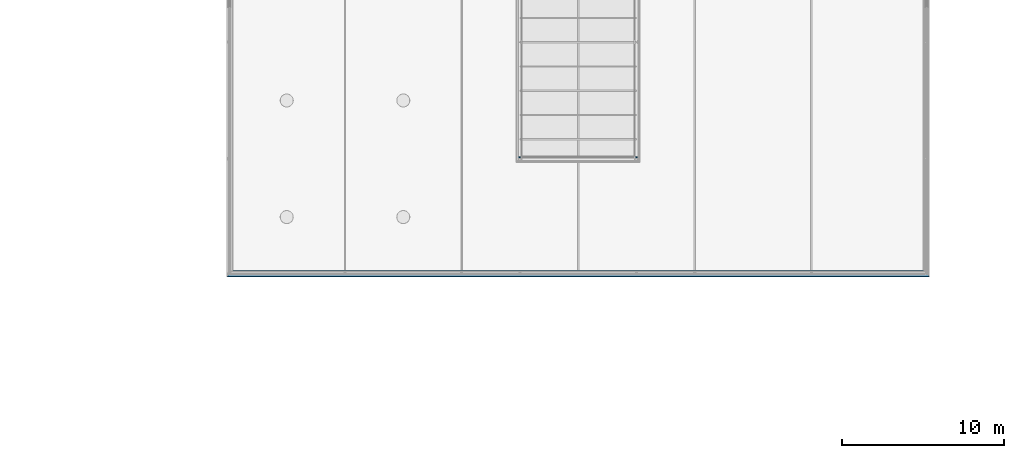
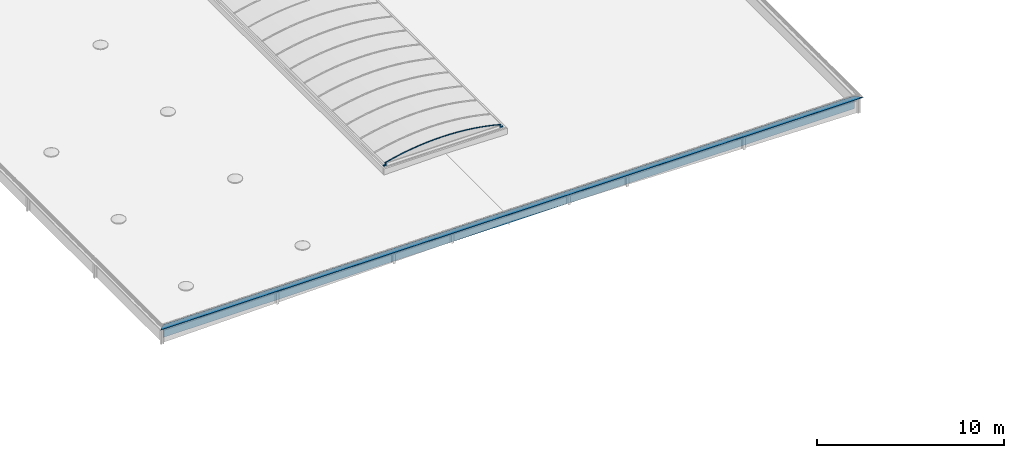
# One storey, part 51 of 81: 2 beams.
"""IFC2X3 building model written with IfcOpenShell, lengths in millimetres."""

from ifc_helpers import new_model, entity, si_unit, converted_unit, derived_unit, money_unit, direction, frame, origin_with_axes, place, context, subcontext, project, spatial, faceted_brep, material, material_list, type_object, element, save


model = new_model("IFC2X3")

# Units and contexts
model_context = context("Model", 3, precision=0.01, world=origin_with_axes(), true_north=direction((0.0, 1.0)))
body_context = subcontext(model_context, "Body", "Model", "MODEL_VIEW")
ifc_project = project(units=[si_unit("LENGTHUNIT", "METRE", prefix="MILLI"), si_unit("AREAUNIT", "SQUARE_METRE"), si_unit("VOLUMEUNIT", "CUBIC_METRE"), converted_unit("PLANEANGLEUNIT", "DEGREE", entity("IfcPlaneAngleMeasure", 0.0174532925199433), si_unit("PLANEANGLEUNIT", "RADIAN"), dimensions=[0, 0, 0, 0, 0, 0, 0]), money_unit("EUR"), converted_unit("TIMEUNIT", "Year", entity("IfcTimeMeasure", 31557600.0), si_unit("TIMEUNIT", "SECOND"), dimensions=[0, 0, 1, 0, 0, 0, 0]), si_unit("MASSUNIT", "GRAM", prefix="KILO"), si_unit("THERMODYNAMICTEMPERATUREUNIT", "DEGREE_CELSIUS"), si_unit("LUMINOUSINTENSITYUNIT", "LUMEN"), si_unit("ENERGYUNIT", "JOULE", prefix="MEGA"), derived_unit("THERMALCONDUCTANCEUNIT", [(si_unit("POWERUNIT", "WATT"), 1), (si_unit("LENGTHUNIT", "METRE"), -1), (si_unit("THERMODYNAMICTEMPERATUREUNIT", "KELVIN"), -1)]), derived_unit("SPECIFICHEATCAPACITYUNIT", [(si_unit("ENERGYUNIT", "JOULE"), 1), (si_unit("MASSUNIT", "GRAM", prefix="KILO"), -1), (si_unit("THERMODYNAMICTEMPERATUREUNIT", "KELVIN"), -1)]), derived_unit("MASSDENSITYUNIT", [(si_unit("MASSUNIT", "GRAM", prefix="KILO"), 1), (si_unit("VOLUMEUNIT", "CUBIC_METRE"), -1)])], contexts=[model_context])

# Site, building, storey
site_placement = place(None, origin_with_axes())
site = spatial("IfcSite", under=ifc_project, at=site_placement, Name="Site", CompositionType="ELEMENT")
building_placement = place(site_placement, origin_with_axes())
building = spatial("IfcBuilding", under=site, at=building_placement, Name="Naam gebouw", CompositionType="ELEMENT")
storey_placement = place(building_placement, frame((0.0, 0.0, 15320.0), z_axis=(0.0, 0.0, 1.0), x_axis=(1.0, 0.0, 0.0)))
storey = spatial("IfcBuildingStorey", under=building, at=storey_placement, Name="01 dak", CompositionType="ELEMENT", Elevation=15320.0)

# Beams
ifc_material_1 = material(Name="Membraan - dampdicht")
ifc_material_2 = material(Name="Metaal - Titanium zink")
ifc_material_list_1 = material_list([ifc_material_1, ifc_material_2])
beam_type_1 = type_object("IfcBeamType", Name="Muurafdekker_210 394 x 841", PredefinedType="BEAM")
beam_1_placement = place(storey_placement, frame((126900.0, 62000.0, 645.0108944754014), z_axis=(0.0, 0.0, 1.0), x_axis=(0.0, 1.0, 0.0)))
element("IfcBeam", 1, at=beam_1_placement, inside=storey, type_object=beam_type_1, material=ifc_material_list_1, Name="dakkap", ObjectType="BEAM", context=body_context, shape_type="Brep", body=[
    faceted_brep([(252.0000000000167, 42947.99999999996, 7.21089447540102), (252.0000000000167, 42947.99999999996, -806.4411900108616), (252.0000000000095, 252.0000000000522, -806.4411900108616), (252.0000000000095, 252.0000000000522, 7.21089447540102), (254.000000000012, 42945.99999999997, 7.21089447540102), (254.000000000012, 42945.99999999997, -806.4411900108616), (254.000000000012, 254.0000000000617, -806.4411900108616), (254.000000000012, 254.0000000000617, 7.21089447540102)], [[[0, 1, 2, 3]], [[0, 4, 5, 1]], [[1, 5, 6, 2]], [[3, 2, 6, 7]], [[4, 0, 3, 7]], [[5, 4, 7, 6]]]),
    faceted_brep([(-105.000000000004, -104.9999999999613, 7.30000000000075), (-104.9999999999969, 43304.99999999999, 7.30000000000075), (-104.2673779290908, 43304.26737792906, 5.531844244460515), (-104.2673779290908, -104.2673779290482, 5.531844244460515), (-105.000000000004, -104.9999999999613, 32.31089447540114), (-104.9999999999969, 43304.99999999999, 32.31089447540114), (-104.3675626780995, 43304.3675626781, 33.97288413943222), (-102.7902322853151, 43302.7902322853, 34.79399036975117), (-101.066058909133, 43301.06605890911, 34.35877458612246), (-79.99022734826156, 43279.99022734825, 19.60131845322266), (-79.70672514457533, 43279.70672514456, 19.5109160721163), (270.2494811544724, 42929.75051884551, 17.21089447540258), (271.6834222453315, 42928.31657775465, 16.75877458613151), (272.5987127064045, 42927.40128729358, 15.56594483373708), (288.3554032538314, 42911.64459674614, -27.72520665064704), (288.2719411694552, 42911.72805883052, -29.63680266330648), (286.8612220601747, 42913.13877793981, -30.92948856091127), (275.1150643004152, 42924.88493569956, -35.20474035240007), (274.4310240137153, 42925.56897598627, -33.32535511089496), (286.1771817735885, 42913.82281822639, -29.05010331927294), (286.4593255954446, 42913.54067440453, -28.79156613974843), (286.4760180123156, 42913.52398198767, -28.40924693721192), (270.7193274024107, 42929.28067259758, 14.88190471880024), (270.5376117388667, 42929.46238826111, 15.11952092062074), (270.2527665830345, 42929.74723341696, 15.21087341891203), (-79.70343913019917, 43279.70343913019, 17.51089447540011), (-81.13738022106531, 43281.13738022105, 17.96301436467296), (-102.2132117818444, 43302.21321178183, 32.72047049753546), (-102.5580464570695, 43302.55804645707, 32.80751365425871), (-102.8735125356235, 43302.87351253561, 32.64329240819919), (-102.9999999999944, 43302.99999999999, 32.31089447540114), (-102.9999999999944, 43302.99999999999, 7.30000000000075), (-102.853483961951, 43302.85348396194, 6.946377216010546), (-102.4998036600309, 43302.49980366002, 6.800000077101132), (-49.99999999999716, 43249.99999999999, 6.823967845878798), (-49.99999999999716, 43249.99999999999, -13.1803899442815), (-51.9999999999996, 43251.99999999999, -13.1803899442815), (-51.9999999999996, 43251.99999999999, 4.822224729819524), (-102.4988997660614, 43302.49889976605, 4.800000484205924), (-102.4988997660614, -102.4988997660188, 4.800000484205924), (-51.9999999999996, -51.99999999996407, 4.822224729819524), (-51.9999999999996, -51.99999999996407, -13.1803899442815), (-49.99999999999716, -49.99999999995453, -13.1803899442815), (-49.99999999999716, -49.99999999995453, 6.823967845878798), (-102.4998036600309, -102.4998036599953, 6.800000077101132), (-102.853483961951, -102.8534839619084, 6.946377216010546), (-103.0000000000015, -102.999999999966, 7.30000000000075), (-103.0000000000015, -102.999999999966, 32.31089447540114), (-102.8735125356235, -102.8735125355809, 32.64329240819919), (-102.5580464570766, -102.5580464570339, 32.80751365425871), (-102.2132117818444, -102.2132117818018, 32.72047049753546), (-81.13738022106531, -81.13738022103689, 17.96301436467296), (-79.70343913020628, -79.70343913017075, 17.51089447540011), (270.2527665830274, 270.2527665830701, 15.21087341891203), (270.5376117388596, 270.5376117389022, 15.11952092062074), (270.7193274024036, 270.7193274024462, 14.88190471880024), (286.4760180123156, 286.4760180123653, -28.40924693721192), (286.4593255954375, 286.4593255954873, -28.79156613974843), (286.1771817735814, 286.1771817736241, -29.05010331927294), (274.4310240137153, 274.4310240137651, -33.32535511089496), (275.1150643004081, 275.1150643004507, -35.20474035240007), (286.8612220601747, 286.8612220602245, -30.92948856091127), (288.2719411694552, 288.2719411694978, -29.63680266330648), (288.3554032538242, 288.355403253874, -27.72520665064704), (272.5987127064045, 272.5987127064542, 15.56594483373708), (271.6834222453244, 271.6834222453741, 16.75877458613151), (270.2494811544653, 270.249481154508, 17.21089447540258), (-79.70672514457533, -79.7067251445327, 19.5109160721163), (-79.99022734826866, -79.99022734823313, 19.60131845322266), (-101.066058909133, -101.0660589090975, 34.35877458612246), (-102.7902322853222, -102.7902322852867, 34.79399036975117), (-104.3675626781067, -104.367562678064, 33.97288413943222)], [[[0, 1, 2, 3]], [[4, 5, 1, 0]], [[2, 1, 5, 6, 7, 8, 9, 10, 11, 12, 13, 14, 15, 16, 17, 18, 19, 20, 21, 22, 23, 24, 25, 26, 27, 28, 29, 30, 31, 32, 33, 34, 35, 36, 37, 38]], [[3, 2, 38, 39]], [[4, 0, 3, 39, 40, 41, 42, 43, 44, 45, 46, 47, 48, 49, 50, 51, 52, 53, 54, 55, 56, 57, 58, 59, 60, 61, 62, 63, 64, 65, 66, 67, 68, 69, 70, 71]], [[71, 6, 5, 4]], [[70, 7, 6, 71]], [[69, 8, 7, 70]], [[68, 9, 8, 69]], [[67, 10, 9, 68]], [[66, 11, 10, 67]], [[65, 12, 11, 66]], [[64, 13, 12, 65]], [[63, 14, 13, 64]], [[62, 15, 14, 63]], [[61, 16, 15, 62]], [[60, 17, 16, 61]], [[59, 18, 17, 60]], [[58, 19, 18, 59]], [[57, 20, 19, 58]], [[56, 21, 20, 57]], [[55, 22, 21, 56]], [[54, 23, 22, 55]], [[53, 24, 23, 54]], [[52, 25, 24, 53]], [[51, 26, 25, 52]], [[50, 27, 26, 51]], [[49, 28, 27, 50]], [[48, 29, 28, 49]], [[47, 30, 29, 48]], [[46, 31, 30, 47]], [[45, 32, 31, 46]], [[44, 33, 32, 45]], [[43, 34, 33, 44]], [[42, 35, 34, 43]], [[41, 36, 35, 42]], [[40, 37, 36, 41]], [[39, 38, 37, 40]]]),
])
ifc_material_3 = material(Name="Metaal - Aluminium AFW")
ifc_material_4 = material(Name="Hout - Dak")
ifc_material_list_2 = material_list([ifc_material_3, ifc_material_3, ifc_material_3, ifc_material_3, ifc_material_3, ifc_material_3, ifc_material_3, ifc_material_3, ifc_material_4, ifc_material_4, ifc_material_4, ifc_material_4, ifc_material_4, ifc_material_4])
beam_type_2 = type_object("IfcBeamType", Name="lichtstraat polycarbonaat (constructie) 7420 x 670", PredefinedType="BEAM")
beam_2_placement = place(storey_placement, frame((105300.0, 69337.49999999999, 559.9999999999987), z_axis=(0.0, 0.0, 1.0), x_axis=(-1.0, 0.0, 0.0)))
element("IfcBeam", 2, at=beam_2_placement, inside=storey, type_object=beam_type_2, material=ifc_material_list_2, Name="lichtstraat", ObjectType="BEAM", context=body_context, shape_type="Brep", body=[
    faceted_brep([(3625.153752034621, 0.0, 58.00000032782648), (3627.224816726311, 0.0, 62.99999938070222), (3627.224816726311, 75.00000000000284, 62.99999938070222), (3625.153752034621, 75.00000000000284, 58.00000032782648), (3709.999999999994, 0.0, 58.00000032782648), (3709.999999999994, 0.0, 62.99999938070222), (3709.999999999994, 75.00000000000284, 62.99999938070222), (3709.999999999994, 75.00000000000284, 58.00000032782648)], [[[0, 1, 2, 3]], [[4, 5, 1, 0]], [[1, 5, 6, 2]], [[7, 3, 2, 6]], [[4, 0, 3, 7]], [[5, 4, 7, 6]]]),
    faceted_brep([(3527.999999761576, 0.0, 155.1537485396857), (3527.999999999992, 0.0, 184.0000000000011), (3527.999999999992, 75.00000000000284, 184.0000000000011), (3527.999999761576, 75.00000000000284, 155.1537485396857), (3532.999999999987, 0.0, 192.1385480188), (3527.999999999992, 0.0, 193.4415530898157), (3532.999997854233, 0.0, 157.2248178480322), (3527.999999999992, 75.00000000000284, 193.4415530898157), (3532.999997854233, 75.00000000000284, 157.2248178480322), (3532.999999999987, 75.00000000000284, 192.1385480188)], [[[0, 1, 2, 3]], [[4, 5, 1, 0, 6]], [[1, 5, 7, 2]], [[8, 3, 2, 7, 9]], [[6, 0, 3, 8]], [[5, 4, 9, 7]], [[4, 6, 8, 9]]]),
    faceted_brep([(3625.153750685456, 0.0, 58.00000035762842), (3527.999999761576, 0.0, 155.1537485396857), (3527.999999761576, 75.00000000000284, 155.1537485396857), (3625.153750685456, 75.00000000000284, 58.00000035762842), (3627.224817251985, 0.0, 62.99999845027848), (3532.999997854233, 0.0, 157.2248178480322), (3532.999997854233, 75.00000000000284, 157.2248178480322), (3627.224817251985, 75.00000000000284, 62.99999845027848)], [[[0, 1, 2, 3]], [[4, 5, 1, 0]], [[1, 5, 6, 2]], [[7, 3, 2, 6]], [[4, 0, 3, 7]], [[5, 4, 7, 6]]]),
    faceted_brep([(-3709.999999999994, 0.0, 58.00000032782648), (-3709.999999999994, 0.0, 62.99999939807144), (-3709.999999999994, 75.00000000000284, 62.99999939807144), (-3709.999999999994, 75.00000000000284, 58.00000032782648), (-3625.153749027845, 0.0, 58.00000032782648), (-3627.224816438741, 0.0, 62.99999939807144), (-3627.224816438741, 75.00000000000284, 62.99999939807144), (-3625.153749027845, 75.00000000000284, 58.00000032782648)], [[[0, 1, 2, 3]], [[4, 5, 1, 0]], [[1, 5, 6, 2]], [[7, 3, 2, 6]], [[4, 0, 3, 7]], [[5, 4, 7, 6]]]),
    faceted_brep([(-3528.000000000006, 0.0, 155.1537497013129), (-3533.000000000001, 0.0, 157.2248175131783), (-3533.000000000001, 75.00000000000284, 157.2248175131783), (-3528.000000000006, 75.00000000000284, 155.1537497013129), (-3528.000000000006, 0.0, 193.4415530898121), (-3533.000000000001, 0.0, 192.1385480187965), (-3527.999999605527, 0.0, 184.0000003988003), (-3533.000000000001, 75.00000000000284, 192.1385480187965), (-3527.999999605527, 75.00000000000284, 184.0000003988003), (-3528.000000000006, 75.00000000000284, 193.4415530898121)], [[[0, 1, 2, 3]], [[4, 5, 1, 0, 6]], [[1, 5, 7, 2]], [[8, 3, 2, 7, 9]], [[6, 0, 3, 8]], [[5, 4, 9, 7]], [[4, 6, 8, 9]]]),
    faceted_brep([(-3627.224816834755, 0.0, 62.99999858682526), (-3532.999999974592, 0.0, 157.2248181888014), (-3532.999999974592, 75.00000000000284, 157.2248181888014), (-3627.224816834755, 75.00000000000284, 62.99999858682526), (-3625.153750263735, 0.0, 58.00000048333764), (-3527.999999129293, 0.0, 155.1537488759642), (-3527.999999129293, 75.00000000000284, 155.1537488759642), (-3625.153750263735, 75.00000000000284, 58.00000048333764)], [[[0, 1, 2, 3]], [[4, 5, 1, 0]], [[1, 5, 6, 2]], [[7, 3, 2, 6]], [[4, 0, 3, 7]], [[5, 4, 7, 6]]]),
    faceted_brep([(3584.237010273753, 75.00000000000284, 183.6724462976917), (3264.746952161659, 75.00000000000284, 264.2761146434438), (3264.746952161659, 0.0, 264.2761146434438), (3584.237010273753, 0.0, 183.6724462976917), (2296.138887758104, 75.00000000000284, 460.6819250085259), (2620.519461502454, 75.00000000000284, 402.8192257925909), (2943.44844329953, 75.00000000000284, 337.3385317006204), (3582.999999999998, 75.00000000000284, 179.000000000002), (3532.999999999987, 75.00000000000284, 192.1385480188), (3527.999999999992, 75.00000000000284, 193.4415530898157), (3213.322878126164, 75.00000000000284, 271.5053933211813), (2896.922437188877, 75.00000000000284, 342.2614189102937), (2578.96836412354, 75.00000000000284, 405.671683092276), (2259.631179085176, 75.00000000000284, 461.7021786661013), (1939.082143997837, 75.00000000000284, 510.3228562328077), (1617.493170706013, 75.00000000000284, 551.5076403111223), (1295.036728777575, 75.00000000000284, 585.2344433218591), (971.8857530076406, 75.00000000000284, 611.4851774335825), (648.2135506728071, 75.00000000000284, 630.2457642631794), (324.1937085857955, 75.00000000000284, 641.5061424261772), (0.0, 75.00000000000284, 645.2602729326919), (-324.1937085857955, 75.00000000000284, 641.5061424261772), (-648.2135506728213, 75.00000000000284, 630.2457642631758), (-971.8857530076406, 75.00000000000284, 611.4851774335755), (-1295.036728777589, 75.00000000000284, 585.2344433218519), (-1617.493170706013, 75.00000000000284, 551.5076403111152), (-1939.082143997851, 75.00000000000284, 510.3228562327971), (-2259.63117908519, 75.00000000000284, 461.7021786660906), (-2578.96836412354, 75.00000000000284, 405.6716830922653), (-2896.922437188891, 75.00000000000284, 342.2614189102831), (-3213.322878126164, 75.00000000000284, 271.5053933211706), (-3528.000000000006, 75.00000000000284, 193.4415530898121), (-3528.000000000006, 75.00000000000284, 194.0000000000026), (-3533.000000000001, 75.00000000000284, 194.0000000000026), (-3533.000000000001, 75.00000000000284, 192.1385480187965), (-3582.999999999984, 75.00000000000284, 179.000000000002), (-3584.237010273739, 75.00000000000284, 183.6724462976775), (-3264.746952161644, 75.00000000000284, 264.2761146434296), (-2943.448443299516, 75.00000000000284, 337.3385317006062), (-2620.51946150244, 75.00000000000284, 402.8192257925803), (-2296.138887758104, 75.00000000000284, 460.6819250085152), (-1970.486407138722, 75.00000000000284, 510.8945772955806), (-1643.742409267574, 75.00000000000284, 553.4293682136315), (-1316.087888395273, 75.00000000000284, 588.2627363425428), (-987.7043431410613, 75.00000000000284, 615.3753863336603), (-658.7736759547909, 75.00000000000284, 634.7522995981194), (-329.4780923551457, 75.00000000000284, 646.3827426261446), (0.0, 75.00000000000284, 650.2602729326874), (329.4780923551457, 75.00000000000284, 646.3827426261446), (658.7736759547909, 75.00000000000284, 634.7522995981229), (987.7043431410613, 75.00000000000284, 615.375386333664), (1316.087888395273, 75.00000000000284, 588.2627363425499), (1643.742409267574, 75.00000000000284, 553.4293682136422), (1970.486407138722, 75.00000000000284, 510.8945772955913), (2943.44844329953, 0.0, 337.3385317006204), (3213.322878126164, 0.0, 271.5053933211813), (3527.999999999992, 0.0, 193.4415530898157), (3532.999999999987, 0.0, 192.1385480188), (3582.999999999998, 0.0, 179.000000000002), (2620.519461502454, 0.0, 402.8192257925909), (2296.138887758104, 0.0, 460.6819250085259), (1970.486407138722, 0.0, 510.8945772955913), (1643.742409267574, 0.0, 553.4293682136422), (1316.087888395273, 0.0, 588.2627363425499), (987.7043431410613, 0.0, 615.375386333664), (658.7736759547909, 0.0, 634.7522995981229), (329.4780923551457, 0.0, 646.3827426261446), (0.0, 0.0, 650.2602729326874), (-329.4780923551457, 0.0, 646.3827426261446), (-658.7736759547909, 0.0, 634.7522995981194), (-987.7043431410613, 0.0, 615.3753863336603), (-1316.087888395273, 0.0, 588.2627363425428), (-1643.742409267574, 0.0, 553.4293682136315), (-1970.486407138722, 0.0, 510.8945772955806), (-2296.138887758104, 0.0, 460.6819250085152), (-2620.51946150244, 0.0, 402.8192257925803), (-2943.448443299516, 0.0, 337.3385317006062), (-3264.746952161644, 0.0, 264.2761146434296), (-3584.237010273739, 0.0, 183.6724462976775), (-3582.999999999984, 0.0, 179.000000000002), (-3533.000000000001, 0.0, 192.1385480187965), (-3533.000000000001, 0.0, 194.0000000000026), (-3528.000000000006, 0.0, 194.0000000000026), (-3528.000000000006, 0.0, 193.4415530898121), (-3213.322878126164, 0.0, 271.5053933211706), (-2896.922437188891, 0.0, 342.2614189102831), (-2578.96836412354, 0.0, 405.6716830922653), (-2259.63117908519, 0.0, 461.7021786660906), (-1939.082143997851, 0.0, 510.3228562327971), (-1617.493170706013, 0.0, 551.5076403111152), (-1295.036728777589, 0.0, 585.2344433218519), (-971.8857530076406, 0.0, 611.4851774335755), (-648.2135506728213, 0.0, 630.2457642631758), (-324.1937085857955, 0.0, 641.5061424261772), (0.0, 0.0, 645.2602729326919), (324.1937085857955, 0.0, 641.5061424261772), (648.2135506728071, 0.0, 630.2457642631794), (971.8857530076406, 0.0, 611.4851774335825), (1295.036728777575, 0.0, 585.2344433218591), (1617.493170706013, 0.0, 551.5076403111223), (1939.082143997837, 0.0, 510.3228562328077), (2259.631179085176, 0.0, 461.7021786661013), (2578.96836412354, 0.0, 405.671683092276), (2896.922437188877, 0.0, 342.2614189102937)], [[[0, 1, 2, 3]], [[4, 5, 6, 1, 0, 7, 8, 9, 10, 11, 12, 13, 14, 15, 16, 17, 18, 19, 20, 21, 22, 23, 24, 25, 26, 27, 28, 29, 30, 31, 32, 33, 34, 35, 36, 37, 38, 39, 40, 41, 42, 43, 44, 45, 46, 47, 48, 49, 50, 51, 52, 53]], [[1, 6, 54, 2]], [[55, 56, 57, 58, 3, 2, 54, 59, 60, 61, 62, 63, 64, 65, 66, 67, 68, 69, 70, 71, 72, 73, 74, 75, 76, 77, 78, 79, 80, 81, 82, 83, 84, 85, 86, 87, 88, 89, 90, 91, 92, 93, 94, 95, 96, 97, 98, 99, 100, 101, 102, 103]], [[7, 0, 3, 58]], [[5, 4, 60, 59]], [[6, 5, 59, 54]], [[8, 7, 58, 57]], [[9, 8, 57, 56]], [[10, 9, 56, 55]], [[11, 10, 55, 103]], [[12, 11, 103, 102]], [[13, 12, 102, 101]], [[14, 13, 101, 100]], [[15, 14, 100, 99]], [[16, 15, 99, 98]], [[17, 16, 98, 97]], [[18, 17, 97, 96]], [[19, 18, 96, 95]], [[20, 19, 95, 94]], [[21, 20, 94, 93]], [[22, 21, 93, 92]], [[23, 22, 92, 91]], [[24, 23, 91, 90]], [[25, 24, 90, 89]], [[26, 25, 89, 88]], [[27, 26, 88, 87]], [[28, 27, 87, 86]], [[29, 28, 86, 85]], [[30, 29, 85, 84]], [[31, 30, 84, 83]], [[32, 31, 83, 82]], [[33, 32, 82, 81]], [[34, 33, 81, 80]], [[35, 34, 80, 79]], [[36, 35, 79, 78]], [[37, 36, 78, 77]], [[38, 37, 77, 76]], [[39, 38, 76, 75]], [[40, 39, 75, 74]], [[41, 40, 74, 73]], [[42, 41, 73, 72]], [[43, 42, 72, 71]], [[44, 43, 71, 70]], [[45, 44, 70, 69]], [[46, 45, 69, 68]], [[47, 46, 68, 67]], [[48, 47, 67, 66]], [[49, 48, 66, 65]], [[50, 49, 65, 64]], [[51, 50, 64, 63]], [[52, 51, 63, 62]], [[53, 52, 62, 61]], [[4, 53, 61, 60]]]),
    faceted_brep([(-3589.184752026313, 75.00000000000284, 202.3611008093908), (-3587.947861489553, 75.00000000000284, 197.6891067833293), (-3587.947861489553, 0.0, 197.6891067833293), (-3589.184752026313, 0.0, 202.3611008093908), (-3269.271727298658, 75.00000000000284, 283.190243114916), (-2947.542627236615, 75.00000000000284, 356.4574241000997), (-2624.176171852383, 75.00000000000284, 422.121943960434), (-2299.351990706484, 75.00000000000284, 480.1473261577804), (-1973.250523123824, 75.00000000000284, 530.5013376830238), (-1646.052917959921, 75.00000000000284, 573.1560069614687), (-1317.940932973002, 75.00000000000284, 608.0876393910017), (-989.0968338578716, 75.00000000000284, 635.2768305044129), (-659.7032929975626, 75.00000000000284, 654.7084767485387), (-329.9432879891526, 75.00000000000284, 666.3717838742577), (0.0, 75.00000000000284, 670.2602729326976), (329.9432879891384, 75.00000000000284, 666.3717838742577), (659.7032929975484, 75.00000000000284, 654.7084767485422), (989.0968338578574, 75.00000000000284, 635.2768305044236), (1317.940932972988, 75.00000000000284, 608.087639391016), (1646.052917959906, 75.00000000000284, 573.156006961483), (1973.250523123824, 75.00000000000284, 530.5013376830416), (2299.351990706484, 75.00000000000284, 480.1473261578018), (2624.176171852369, 75.00000000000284, 422.1219439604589), (2947.542627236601, 75.00000000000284, 356.4574241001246), (3269.271727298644, 75.00000000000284, 283.1902431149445), (3589.184752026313, 75.00000000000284, 202.3611008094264), (3587.947861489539, 75.00000000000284, 197.6891067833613), (3533.000000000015, 75.00000000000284, 212.1385480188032), (3528.00000000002, 75.00000000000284, 213.4415530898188), (3213.322878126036, 75.00000000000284, 291.5053933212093), (2896.922437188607, 75.00000000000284, 362.2614189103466), (2578.968364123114, 75.00000000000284, 425.6716830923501), (2259.631179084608, 75.00000000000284, 481.7021786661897), (1939.082143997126, 75.00000000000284, 530.3228562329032), (1617.493170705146, 75.00000000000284, 571.5076403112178), (1295.036728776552, 75.00000000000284, 605.234443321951), (971.8857530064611, 75.00000000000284, 631.4851774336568), (648.2135506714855, 75.00000000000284, 650.2457642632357), (324.1937085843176, 75.00000000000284, 661.5061424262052), (-1.63424829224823e-09, 75.00000000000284, 665.2602729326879), (-324.1937085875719, 75.00000000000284, 661.5061424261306), (-648.2135506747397, 75.00000000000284, 650.2457642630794), (-971.8857530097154, 75.00000000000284, 631.4851774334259), (-1295.036728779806, 75.00000000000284, 605.234443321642), (-1617.493170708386, 75.00000000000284, 571.5076403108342), (-1939.082144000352, 75.00000000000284, 530.3228562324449), (-2259.631179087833, 75.00000000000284, 481.7021786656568), (-2578.968364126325, 75.00000000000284, 425.6716830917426), (-2896.922437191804, 75.00000000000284, 362.2614189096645), (-3213.322878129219, 75.00000000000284, 291.505393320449), (-3528.000000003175, 75.00000000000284, 213.4415530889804), (-3528.000000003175, 0.0, 213.4415530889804), (-3213.322878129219, 0.0, 291.505393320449), (-2896.922437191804, 0.0, 362.2614189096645), (-2578.968364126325, 0.0, 425.6716830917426), (-2259.631179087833, 0.0, 481.7021786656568), (-1939.082144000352, 0.0, 530.3228562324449), (-1617.493170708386, 0.0, 571.5076403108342), (-1295.036728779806, 0.0, 605.234443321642), (-971.8857530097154, 0.0, 631.4851774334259), (-648.2135506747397, 0.0, 650.2457642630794), (-324.1937085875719, 0.0, 661.5061424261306), (-1.63424829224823e-09, 0.0, 665.2602729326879), (324.1937085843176, 0.0, 661.5061424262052), (648.2135506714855, 0.0, 650.2457642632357), (971.8857530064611, 0.0, 631.4851774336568), (1295.036728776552, 0.0, 605.234443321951), (1617.493170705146, 0.0, 571.5076403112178), (1939.082143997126, 0.0, 530.3228562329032), (2259.631179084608, 0.0, 481.7021786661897), (2578.968364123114, 0.0, 425.6716830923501), (2896.922437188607, 0.0, 362.2614189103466), (3213.322878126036, 0.0, 291.5053933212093), (3528.00000000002, 0.0, 213.4415530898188), (3533.000000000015, 0.0, 212.1385480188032), (3587.947861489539, 0.0, 197.6891067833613), (3589.184752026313, 0.0, 202.3611008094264), (3269.271727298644, 0.0, 283.1902431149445), (2947.542627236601, 0.0, 356.4574241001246), (2624.176171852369, 0.0, 422.1219439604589), (2299.351990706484, 0.0, 480.1473261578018), (1973.250523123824, 0.0, 530.5013376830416), (1646.052917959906, 0.0, 573.156006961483), (1317.940932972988, 0.0, 608.087639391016), (989.0968338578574, 0.0, 635.2768305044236), (659.7032929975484, 0.0, 654.7084767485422), (329.9432879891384, 0.0, 666.3717838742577), (0.0, 0.0, 670.2602729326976), (-329.9432879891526, 0.0, 666.3717838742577), (-659.7032929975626, 0.0, 654.7084767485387), (-989.0968338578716, 0.0, 635.2768305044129), (-1317.940932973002, 0.0, 608.0876393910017), (-1646.052917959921, 0.0, 573.1560069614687), (-1973.250523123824, 0.0, 530.5013376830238), (-2299.351990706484, 0.0, 480.1473261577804), (-2624.176171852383, 0.0, 422.121943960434), (-2947.542627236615, 0.0, 356.4574241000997), (-3269.271727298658, 0.0, 283.190243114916)], [[[0, 1, 2, 3]], [[0, 4, 5, 6, 7, 8, 9, 10, 11, 12, 13, 14, 15, 16, 17, 18, 19, 20, 21, 22, 23, 24, 25, 26, 27, 28, 29, 30, 31, 32, 33, 34, 35, 36, 37, 38, 39, 40, 41, 42, 43, 44, 45, 46, 47, 48, 49, 50, 1]], [[1, 50, 51, 2]], [[3, 2, 51, 52, 53, 54, 55, 56, 57, 58, 59, 60, 61, 62, 63, 64, 65, 66, 67, 68, 69, 70, 71, 72, 73, 74, 75, 76, 77, 78, 79, 80, 81, 82, 83, 84, 85, 86, 87, 88, 89, 90, 91, 92, 93, 94, 95, 96, 97]], [[4, 0, 3, 97]], [[5, 4, 97, 96]], [[6, 5, 96, 95]], [[7, 6, 95, 94]], [[8, 7, 94, 93]], [[9, 8, 93, 92]], [[10, 9, 92, 91]], [[11, 10, 91, 90]], [[12, 11, 90, 89]], [[13, 12, 89, 88]], [[14, 13, 88, 87]], [[15, 14, 87, 86]], [[16, 15, 86, 85]], [[17, 16, 85, 84]], [[18, 17, 84, 83]], [[19, 18, 83, 82]], [[20, 19, 82, 81]], [[21, 20, 81, 80]], [[22, 21, 80, 79]], [[23, 22, 79, 78]], [[24, 23, 78, 77]], [[25, 24, 77, 76]], [[26, 25, 76, 75]], [[27, 26, 75, 74]], [[28, 27, 74, 73]], [[29, 28, 73, 72]], [[30, 29, 72, 71]], [[31, 30, 71, 70]], [[32, 31, 70, 69]], [[33, 32, 69, 68]], [[34, 33, 68, 67]], [[35, 34, 67, 66]], [[36, 35, 66, 65]], [[37, 36, 65, 64]], [[38, 37, 64, 63]], [[39, 38, 63, 62]], [[40, 39, 62, 61]], [[41, 40, 61, 60]], [[42, 41, 60, 59]], [[43, 42, 59, 58]], [[44, 43, 58, 57]], [[45, 44, 57, 56]], [[46, 45, 56, 55]], [[47, 46, 55, 54]], [[48, 47, 54, 53]], [[49, 48, 53, 52]], [[50, 49, 52, 51]]]),
    faceted_brep([(3489.999999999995, 0.0, 0.0), (3489.999999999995, 0.0, 184.0000000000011), (3489.999999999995, 75.00000000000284, 184.0000000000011), (3489.999999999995, 75.00000000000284, 0.0), (3527.999999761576, 0.0, 155.1537485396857), (3527.999999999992, 0.0, 184.0000000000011), (3527.999999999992, 0.0, 0.0), (3527.999999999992, 0.0, 128.0000000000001), (3527.999999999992, 75.00000000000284, 184.0000000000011), (3527.999999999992, 75.00000000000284, 0.0), (3527.999999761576, 75.00000000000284, 155.1537485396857), (3527.999999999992, 75.00000000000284, 128.0000000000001)], [[[0, 1, 2, 3]], [[4, 5, 1, 0, 6, 7]], [[1, 5, 8, 2]], [[9, 3, 2, 8, 10, 11]], [[6, 0, 3, 9]], [[5, 4, 10, 8]], [[7, 6, 9, 11]], [[4, 7, 11, 10]]]),
    faceted_brep([(3598.000000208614, 0.0, 58.00000032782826), (3598.000000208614, 75.00000000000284, 58.00000032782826), (3527.999999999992, 75.00000000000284, 58.00000032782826), (3527.999999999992, 0.0, 58.00000032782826), (3625.153752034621, 0.0, 58.00000032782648), (3625.153752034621, 75.00000000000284, 58.00000032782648), (3709.999999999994, 75.00000000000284, 58.00000032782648), (3709.999999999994, 75.00000000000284, 0.0), (3527.999999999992, 75.00000000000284, 0.0), (3527.999999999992, 0.0, 0.0), (3709.999999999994, 0.0, 0.0), (3709.999999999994, 0.0, 58.00000032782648)], [[[0, 1, 2, 3]], [[4, 5, 1, 0]], [[2, 1, 5, 6, 7, 8]], [[3, 2, 8, 9]], [[4, 0, 3, 9, 10, 11]], [[11, 6, 5, 4]], [[10, 7, 6, 11]], [[9, 8, 7, 10]]]),
    faceted_brep([(3527.999999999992, 0.0, 57.99999999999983), (3527.999999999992, 75.00000000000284, 57.99999999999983), (3597.999999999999, 75.00000000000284, 57.99999999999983), (3597.999999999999, 0.0, 57.99999999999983), (3527.999999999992, 0.0, 128.0000000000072), (3527.999999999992, 75.00000000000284, 128.0000000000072)], [[[0, 1, 2, 3]], [[4, 5, 1, 0]], [[2, 1, 5]], [[3, 2, 5, 4]], [[4, 0, 3]]]),
    faceted_brep([(-3528.000000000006, 0.0, 155.1537497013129), (-3527.999999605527, 0.0, 184.0000003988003), (-3527.999999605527, 75.00000000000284, 184.0000003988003), (-3528.000000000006, 75.00000000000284, 155.1537497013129), (-3489.999999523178, 0.0, 0.0), (-3489.999999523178, 0.0, 184.0000003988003), (-3527.999999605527, 0.0, 128.000000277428), (-3527.999999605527, 0.0, 0.0), (-3489.999999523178, 75.00000000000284, 184.0000003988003), (-3527.999999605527, 75.00000000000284, 128.000000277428), (-3489.999999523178, 75.00000000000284, 0.0), (-3527.999999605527, 75.00000000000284, 0.0)], [[[0, 1, 2, 3]], [[4, 5, 1, 0, 6, 7]], [[1, 5, 8, 2]], [[9, 3, 2, 8, 10, 11]], [[6, 0, 3, 9]], [[5, 4, 10, 8]], [[7, 6, 9, 11]], [[4, 7, 11, 10]]]),
    faceted_brep([(-3598.000000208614, 0.0, 58.00000032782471), (-3598.000000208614, 75.00000000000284, 58.00000032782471), (-3625.153749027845, 75.00000000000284, 58.00000032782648), (-3625.153749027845, 0.0, 58.00000032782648), (-3528.000000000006, 0.0, 58.00000032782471), (-3528.000000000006, 75.00000000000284, 58.00000032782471), (-3528.000000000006, 75.00000000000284, 0.0), (-3709.999999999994, 75.00000000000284, 0.0), (-3709.999999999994, 75.00000000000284, 58.00000032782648), (-3709.999999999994, 0.0, 58.00000032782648), (-3709.999999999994, 0.0, 0.0), (-3528.000000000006, 0.0, 0.0)], [[[0, 1, 2, 3]], [[4, 5, 1, 0]], [[2, 1, 5, 6, 7, 8]], [[3, 2, 8, 9]], [[4, 0, 3, 9, 10, 11]], [[11, 6, 5, 4]], [[10, 7, 6, 11]], [[9, 8, 7, 10]]]),
    faceted_brep([(-3528.000000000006, 0.0, 57.99999999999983), (-3528.000000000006, 75.00000000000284, 57.99999999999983), (-3528.000000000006, 75.00000000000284, 128.0000000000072), (-3528.000000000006, 0.0, 128.0000000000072), (-3598.000000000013, 0.0, 57.99999999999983), (-3598.000000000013, 75.00000000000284, 57.99999999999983)], [[[0, 1, 2, 3]], [[4, 5, 1, 0]], [[2, 1, 5]], [[3, 2, 5, 4]], [[4, 0, 3]]]),
])

save(model, "model.ifc")
